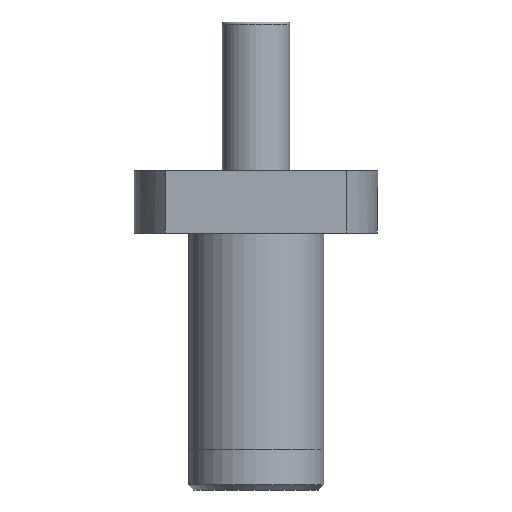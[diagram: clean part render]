
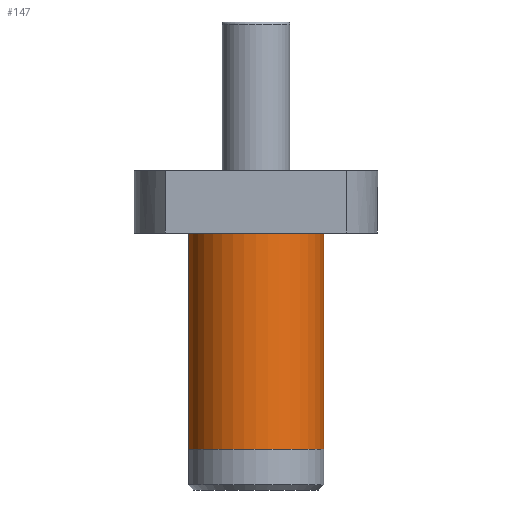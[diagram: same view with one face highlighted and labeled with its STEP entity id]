
A CAD part, front view. The second image highlights one B-rep face of the part: STEP entity #147.
In plain terms, the highlighted cylindrical face has radius 25 mm (diameter 50 mm), a partial arc.
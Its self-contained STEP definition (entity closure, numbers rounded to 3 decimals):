
#22 = VERTEX_POINT('',#23);
#23 = CARTESIAN_POINT('',(-25.,0.,2.));
#32 = VERTEX_POINT('',#33);
#33 = CARTESIAN_POINT('',(25.,0.,2.));
#64 = EDGE_CURVE('',#32,#22,#65,.T.);
#65 = CIRCLE('',#66,25.);
#66 = AXIS2_PLACEMENT_3D('',#67,#68,#69);
#67 = CARTESIAN_POINT('',(0.,0.,2.));
#68 = DIRECTION('',(0.,0.,-1.));
#69 = DIRECTION('',(-1.,0.,0.));
#87 = EDGE_CURVE('',#22,#88,#90,.T.);
#88 = VERTEX_POINT('',#89);
#89 = CARTESIAN_POINT('',(-25.,0.,82.));
#90 = LINE('',#91,#92);
#91 = CARTESIAN_POINT('',(-25.,0.,52.5));
#92 = VECTOR('',#93,1.);
#93 = DIRECTION('',(0.,0.,1.));
#96 = VERTEX_POINT('',#97);
#97 = CARTESIAN_POINT('',(25.,0.,82.));
#104 = EDGE_CURVE('',#32,#96,#105,.T.);
#105 = LINE('',#106,#107);
#106 = CARTESIAN_POINT('',(25.,0.,52.5));
#107 = VECTOR('',#108,1.);
#108 = DIRECTION('',(0.,0.,1.));
#147 = ADVANCED_FACE('',(#148),#160,.T.);
#148 = FACE_BOUND('',#149,.T.);
#149 = EDGE_LOOP('',(#150,#151,#158,#159));
#150 = ORIENTED_EDGE('',*,*,#104,.T.);
#151 = ORIENTED_EDGE('',*,*,#152,.F.);
#152 = EDGE_CURVE('',#88,#96,#153,.T.);
#153 = CIRCLE('',#154,25.);
#154 = AXIS2_PLACEMENT_3D('',#155,#156,#157);
#155 = CARTESIAN_POINT('',(0.,0.,82.));
#156 = DIRECTION('',(0.,0.,1.));
#157 = DIRECTION('',(1.,0.,0.));
#158 = ORIENTED_EDGE('',*,*,#87,.F.);
#159 = ORIENTED_EDGE('',*,*,#64,.F.);
#160 = CYLINDRICAL_SURFACE('',#161,25.);
#161 = AXIS2_PLACEMENT_3D('',#162,#163,#164);
#162 = CARTESIAN_POINT('',(0.,0.,52.5));
#163 = DIRECTION('',(0.,0.,1.));
#164 = DIRECTION('',(-1.,0.,0.));
